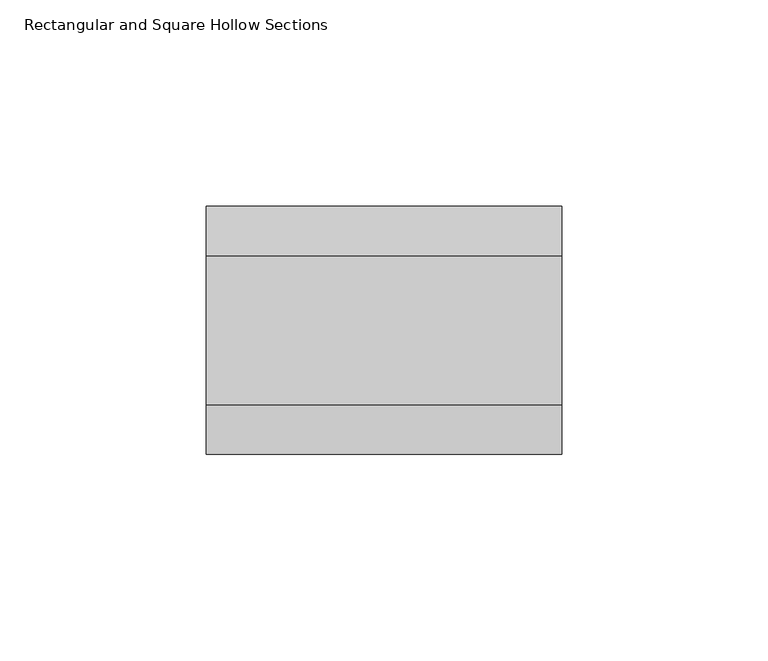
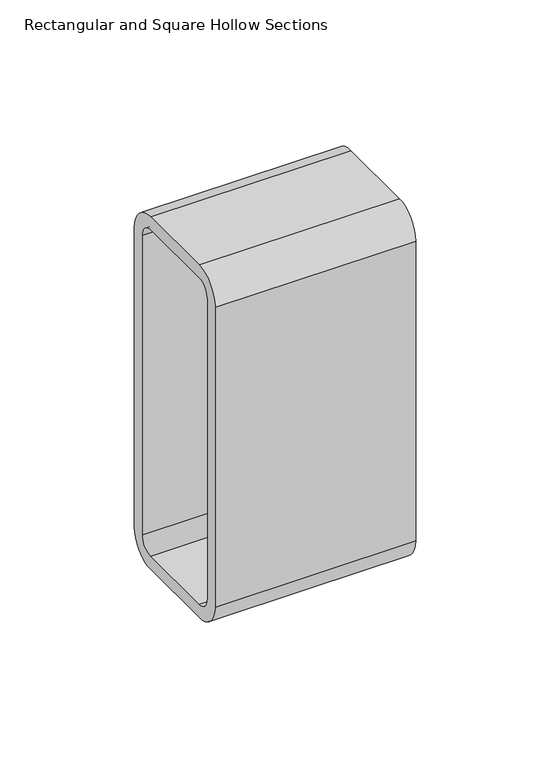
"""IFC4 building model written with IfcOpenShell, lengths in millimetres: beam geometry, Rectangular and Square Hollow Sections : TREC160x60x6."""

from ifc_helpers import new_model, si_unit, point, frame, frame_2d, origin, place, context, project, spatial, polyline, circle_curve, trimmed, segment, composite_curve, outline, extrude, source, transform, mapped, element, save


def rectangular_and_square_hollow_sections_90f7eeb5(model_context):
    return source(origin(), model_context, "Body", "SweptSolid", [
        extrude(outline(composite_curve([segment(polyline([(30.0, 68.0), (30.0, -68.0)]), True, "CONTINUOUS"), segment(trimmed(circle_curve(frame_2d((18.0, -68.0)), 12.0), [point((30.0, -68.0))], [point((18.0, -80.0))], False, "CARTESIAN"), True, "CONTINUOUS"), segment(polyline([(18.0, -80.0), (-18.0, -80.0)]), True, "CONTINUOUS"), segment(trimmed(circle_curve(frame_2d((-18.0, -68.0)), 12.0), [point((-18.0, -80.0))], [point((-30.0, -68.0))], False, "CARTESIAN"), True, "CONTINUOUS"), segment(polyline([(-30.0, -68.0), (-30.0, 68.0)]), True, "CONTINUOUS"), segment(trimmed(circle_curve(frame_2d((-18.0, 68.0)), 12.0), [point((-30.0, 68.0))], [point((-18.0, 80.0))], False, "CARTESIAN"), True, "CONTINUOUS"), segment(polyline([(-18.0, 80.0), (18.0, 80.0)]), True, "CONTINUOUS"), segment(trimmed(circle_curve(frame_2d((18.0, 68.0)), 12.0), [point((18.0, 80.0))], [point((30.0, 68.0))], False, "CARTESIAN"), True, "CONTINUOUS")], self_intersect=False), holes=[composite_curve([segment(trimmed(circle_curve(frame_2d((-18.0, 68.0)), 6.0), [point((-18.0, 74.0))], [point((-24.0, 68.0))], True, "CARTESIAN"), True, "CONTINUOUS"), segment(polyline([(-24.0, 68.0), (-24.0, -68.0)]), True, "CONTINUOUS"), segment(trimmed(circle_curve(frame_2d((-18.0, -68.0)), 6.0), [point((-24.0, -68.0))], [point((-18.0, -74.0))], True, "CARTESIAN"), True, "CONTINUOUS"), segment(polyline([(-18.0, -74.0), (18.0, -74.0)]), True, "CONTINUOUS"), segment(trimmed(circle_curve(frame_2d((18.0, -68.0)), 6.0), [point((18.0, -74.0))], [point((24.0, -68.0))], True, "CARTESIAN"), True, "CONTINUOUS"), segment(polyline([(24.0, -68.0), (24.0, 68.0)]), True, "CONTINUOUS"), segment(trimmed(circle_curve(frame_2d((18.0, 68.0)), 6.0), [point((24.0, 68.0))], [point((18.0, 74.0))], True, "CARTESIAN"), True, "CONTINUOUS"), segment(polyline([(18.0, 74.0), (-18.0, 74.0)]), True, "CONTINUOUS")], self_intersect=False)]), frame((-43.0, 0.0, 0.0), z_axis=(1.0, 0.0, 0.0), x_axis=(0.0, 1.0, 0.0)), (0.0, 0.0, 1.0), 86.0),
    ])


if __name__ == "__main__":
    model = new_model("IFC4")
    model_context = context("Model", 3, world=origin())
    ifc_project = project(units=[si_unit("LENGTHUNIT", "METRE", prefix="MILLI")], contexts=[model_context])
    site = spatial("IfcSite", under=ifc_project)
    building = spatial("IfcBuilding", under=site)
    placement = place(None, origin())
    rectangular_and_square_hollow_sections_shape = rectangular_and_square_hollow_sections_90f7eeb5(model_context)
    element("IfcBeam", 1, ObjectType="Rectangular and Square Hollow Sections : TREC160x60x6", at=placement, inside=building, context=model_context, shape_type="MappedRepresentation", body=[
        mapped(rectangular_and_square_hollow_sections_shape, transform((0.0, 0.0, 0.0), x_axis=(1.0, 0.0, 0.0), y_axis=(0.0, 1.0, 0.0), z_axis=(0.0, 0.0, 1.0))),
    ])
    save(model, "model.ifc")
